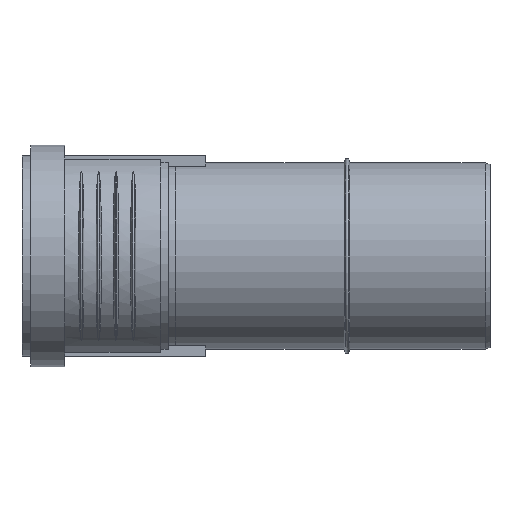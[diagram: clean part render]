
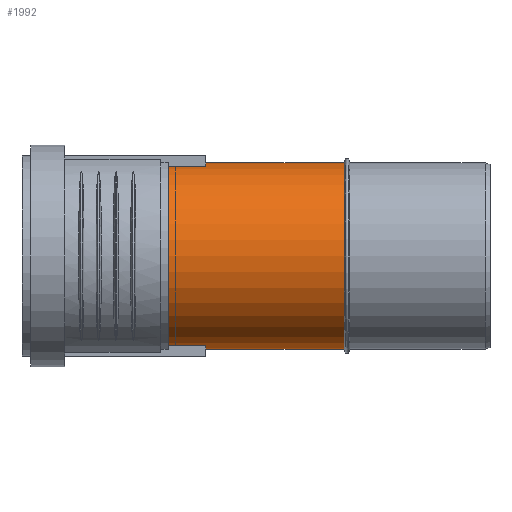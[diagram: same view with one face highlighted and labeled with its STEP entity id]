
A CAD part, left-side view. The second image highlights one B-rep face of the part: STEP entity #1992.
In plain terms, the highlighted cylindrical face has radius 37.6 mm (diameter 75.2 mm), a full revolution.
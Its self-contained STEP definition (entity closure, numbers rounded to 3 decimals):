
#262=CYLINDRICAL_SURFACE($,#2133,37.6);
#428=FACE_BOUND($,#719,.T.);
#429=FACE_BOUND($,#720,.T.);
#490=B_SPLINE_CURVE_WITH_KNOTS($,3,(#2954,#2955,#2956,#2957,#2958,#2959,
#2960,#2961,#2962,#2963,#2964,#2965,#2966,#2967,#2968,#2969,#2970,#2971,
#2972,#2973,#2974,#2975,#2976,#2977,#2978,#2979,#2980,#2981,#2982,#2983,
#2984,#2985,#2986,#2987,#2988,#2989,#2990,#2991,#2992,#2993,#2994,#2995,
#2996,#2997,#2998,#2999,#3000,#3001,#3002,#3003,#3004,#3005,#3006,#3007,
#3008,#3009,#3010,#3011,#3012,#3013,#3014,#3015),.UNSPECIFIED.,.T.,.F.,
(4,2,2,2,2,2,2,2,2,2,2,2,2,2,2,2,2,2,2,2,2,2,2,2,2,2,2,2,2,2,4),(0.,0.861,
1.723,2.584,3.445,4.456,4.962,
5.467,5.973,6.478,7.489,8.35,
9.212,10.073,10.934,11.487,12.039,
12.592,13.144,13.615,14.085,14.556,
15.026,15.497,15.967,16.438,16.908,
17.461,18.014,18.566,19.119),
 .UNSPECIFIED.);
#595=FACE_OUTER_BOUND($,#718,.T.);
#718=EDGE_LOOP($,(#1466));
#719=EDGE_LOOP($,(#1467));
#720=EDGE_LOOP($,(#1468));
#884=CIRCLE($,#2121,37.6);
#889=CIRCLE($,#2130,37.6);
#981=VERTEX_POINT($,#2935);
#986=VERTEX_POINT($,#2949);
#987=VERTEX_POINT($,#2953);
#1183=EDGE_CURVE($,#981,#981,#884,.T.);
#1188=EDGE_CURVE($,#986,#986,#889,.T.);
#1189=EDGE_CURVE($,#987,#987,#490,.T.);
#1466=ORIENTED_EDGE($,*,*,#1183,.T.);
#1467=ORIENTED_EDGE($,*,*,#1188,.T.);
#1468=ORIENTED_EDGE($,*,*,#1189,.T.);
#1992=ADVANCED_FACE($,(#595,#428,#429),#262,.T.);
#2121=AXIS2_PLACEMENT_3D($,#2936,#2358,#2359);
#2130=AXIS2_PLACEMENT_3D($,#2950,#2376,#2377);
#2133=AXIS2_PLACEMENT_3D($,#3016,#2382,#2383);
#2358=DIRECTION('center_axis',(0.,1.,0.));
#2359=DIRECTION('ref_axis',(1.,0.,0.));
#2376=DIRECTION('center_axis',(0.,-1.,0.));
#2377=DIRECTION('ref_axis',(1.,0.,0.));
#2382=DIRECTION('center_axis',(0.,1.,0.));
#2383=DIRECTION('ref_axis',(1.,0.,0.));
#2935=CARTESIAN_POINT('',(-37.6,58.95,0.));
#2936=CARTESIAN_POINT('Origin',(0.,58.95,0.));
#2949=CARTESIAN_POINT('',(37.6,130.32,0.));
#2950=CARTESIAN_POINT('Origin',(0.,130.32,0.));
#2953=CARTESIAN_POINT('',(28.018,85.138,25.075));
#2954=CARTESIAN_POINT('Ctrl Pts',(28.018,85.138,25.075));
#2955=CARTESIAN_POINT('Ctrl Pts',(28.018,88.009,25.075));
#2956=CARTESIAN_POINT('Ctrl Pts',(28.239,90.96,24.832));
#2957=CARTESIAN_POINT('Ctrl Pts',(28.982,96.889,23.961));
#2958=CARTESIAN_POINT('Ctrl Pts',(29.502,99.866,23.332));
#2959=CARTESIAN_POINT('Ctrl Pts',(30.702,105.706,21.729));
#2960=CARTESIAN_POINT('Ctrl Pts',(31.381,108.566,20.756));
#2961=CARTESIAN_POINT('Ctrl Pts',(32.776,114.012,18.474));
#2962=CARTESIAN_POINT('Ctrl Pts',(33.492,116.598,17.168));
#2963=CARTESIAN_POINT('Ctrl Pts',(34.971,121.733,13.944));
#2964=CARTESIAN_POINT('Ctrl Pts',(35.83,124.554,11.721));
#2965=CARTESIAN_POINT('Ctrl Pts',(36.817,127.72,7.754));
#2966=CARTESIAN_POINT('Ctrl Pts',(37.095,128.599,6.327));
#2967=CARTESIAN_POINT('Ctrl Pts',(37.487,129.829,3.293));
#2968=CARTESIAN_POINT('Ctrl Pts',(37.6,130.181,1.685));
#2969=CARTESIAN_POINT('Ctrl Pts',(37.6,130.181,-1.685));
#2970=CARTESIAN_POINT('Ctrl Pts',(37.487,129.829,-3.293));
#2971=CARTESIAN_POINT('Ctrl Pts',(37.095,128.599,-6.327));
#2972=CARTESIAN_POINT('Ctrl Pts',(36.817,127.72,-7.754));
#2973=CARTESIAN_POINT('Ctrl Pts',(35.83,124.554,-11.721));
#2974=CARTESIAN_POINT('Ctrl Pts',(34.971,121.733,-13.944));
#2975=CARTESIAN_POINT('Ctrl Pts',(33.492,116.598,-17.168));
#2976=CARTESIAN_POINT('Ctrl Pts',(32.776,114.012,-18.474));
#2977=CARTESIAN_POINT('Ctrl Pts',(31.381,108.566,-20.756));
#2978=CARTESIAN_POINT('Ctrl Pts',(30.702,105.706,-21.729));
#2979=CARTESIAN_POINT('Ctrl Pts',(29.502,99.866,-23.332));
#2980=CARTESIAN_POINT('Ctrl Pts',(28.982,96.889,-23.961));
#2981=CARTESIAN_POINT('Ctrl Pts',(28.239,90.96,-24.832));
#2982=CARTESIAN_POINT('Ctrl Pts',(28.018,88.009,-25.075));
#2983=CARTESIAN_POINT('Ctrl Pts',(28.018,83.296,-25.075));
#2984=CARTESIAN_POINT('Ctrl Pts',(28.111,81.375,-24.973));
#2985=CARTESIAN_POINT('Ctrl Pts',(28.559,77.576,-24.459));
#2986=CARTESIAN_POINT('Ctrl Pts',(28.916,75.699,-24.046));
#2987=CARTESIAN_POINT('Ctrl Pts',(29.877,72.17,-22.841));
#2988=CARTESIAN_POINT('Ctrl Pts',(30.482,70.512,-22.045));
#2989=CARTESIAN_POINT('Ctrl Pts',(31.81,67.542,-20.083));
#2990=CARTESIAN_POINT('Ctrl Pts',(32.528,66.229,-18.916));
#2991=CARTESIAN_POINT('Ctrl Pts',(33.797,64.156,-16.524));
#2992=CARTESIAN_POINT('Ctrl Pts',(34.387,63.294,-15.279));
#2993=CARTESIAN_POINT('Ctrl Pts',(35.47,61.812,-12.562));
#2994=CARTESIAN_POINT('Ctrl Pts',(35.962,61.191,-11.09));
#2995=CARTESIAN_POINT('Ctrl Pts',(36.769,60.208,-8.018));
#2996=CARTESIAN_POINT('Ctrl Pts',(37.084,59.844,-6.415));
#2997=CARTESIAN_POINT('Ctrl Pts',(37.5,59.37,-3.19));
#2998=CARTESIAN_POINT('Ctrl Pts',(37.6,59.259,-1.568));
#2999=CARTESIAN_POINT('Ctrl Pts',(37.6,59.259,1.568));
#3000=CARTESIAN_POINT('Ctrl Pts',(37.5,59.37,3.19));
#3001=CARTESIAN_POINT('Ctrl Pts',(37.084,59.844,6.415));
#3002=CARTESIAN_POINT('Ctrl Pts',(36.769,60.208,8.018));
#3003=CARTESIAN_POINT('Ctrl Pts',(35.962,61.191,11.09));
#3004=CARTESIAN_POINT('Ctrl Pts',(35.47,61.812,12.562));
#3005=CARTESIAN_POINT('Ctrl Pts',(34.387,63.294,15.279));
#3006=CARTESIAN_POINT('Ctrl Pts',(33.797,64.156,16.524));
#3007=CARTESIAN_POINT('Ctrl Pts',(32.528,66.229,18.916));
#3008=CARTESIAN_POINT('Ctrl Pts',(31.81,67.542,20.083));
#3009=CARTESIAN_POINT('Ctrl Pts',(30.482,70.512,22.045));
#3010=CARTESIAN_POINT('Ctrl Pts',(29.877,72.17,22.841));
#3011=CARTESIAN_POINT('Ctrl Pts',(28.916,75.699,24.046));
#3012=CARTESIAN_POINT('Ctrl Pts',(28.559,77.576,24.459));
#3013=CARTESIAN_POINT('Ctrl Pts',(28.111,81.375,24.973));
#3014=CARTESIAN_POINT('Ctrl Pts',(28.018,83.296,25.075));
#3015=CARTESIAN_POINT('Ctrl Pts',(28.018,85.138,25.075));
#3016=CARTESIAN_POINT('Origin',(0.,0.,0.));
